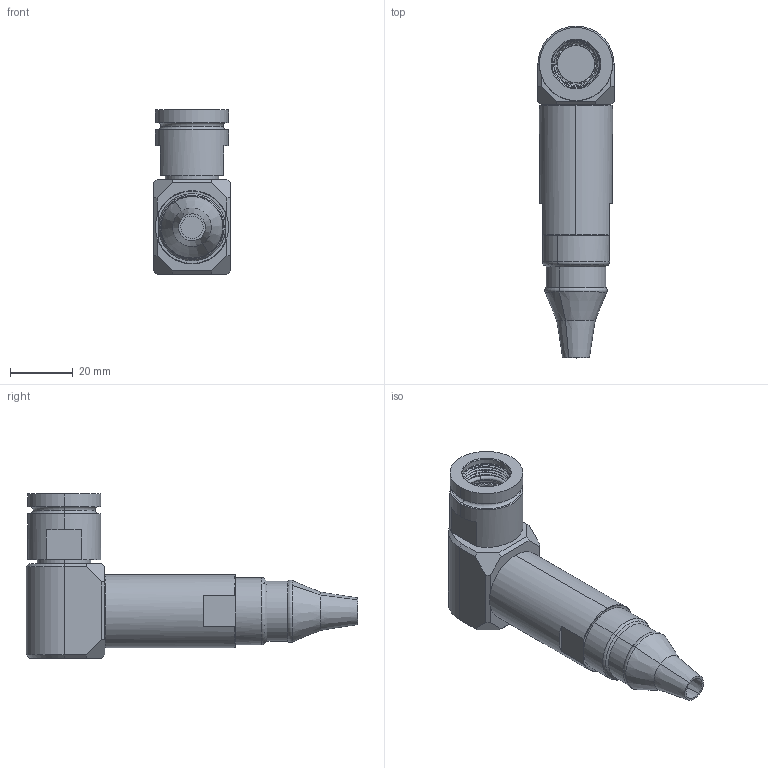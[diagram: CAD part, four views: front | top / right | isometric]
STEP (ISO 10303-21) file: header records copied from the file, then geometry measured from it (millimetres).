
FILE_DESCRIPTION (( 'STEP AP214' ), '1' );
FILE_NAME ('Q38EBSHELL-90X-11-XXXX-HX.STEP', '2025-09-19T15:30:09', ( '' ), ( '' ), 'SwSTEP 2.0', 'SolidWorks 2024', '' );
FILE_SCHEMA (( 'AUTOMOTIVE_DESIGN' ));
Length unit declared in the file: millimetre
Products named in the file (1): Q38EBSHELL-90X-11-XXXX-HX
Bounding box: 24.26 x 105.55 x 52.27 mm (x, y, z)
Volume: 47097.5 mm3; surface area: 12999.9 mm2
Topology: 2 solids, 4 shells, 208 faces, 520 edges, 334 vertices
Faces by surface type: plane 112, cylinder 46, cone 26, torus 15, bspline 9
Entity records: 9008 total; most frequent: CARTESIAN_POINT 4181, ORIENTED_EDGE 1040, DIRECTION 1002, EDGE_CURVE 520, AXIS2_PLACEMENT_3D 401, VERTEX_POINT 334, EDGE_LOOP 224, FACE_OUTER_BOUND 208
